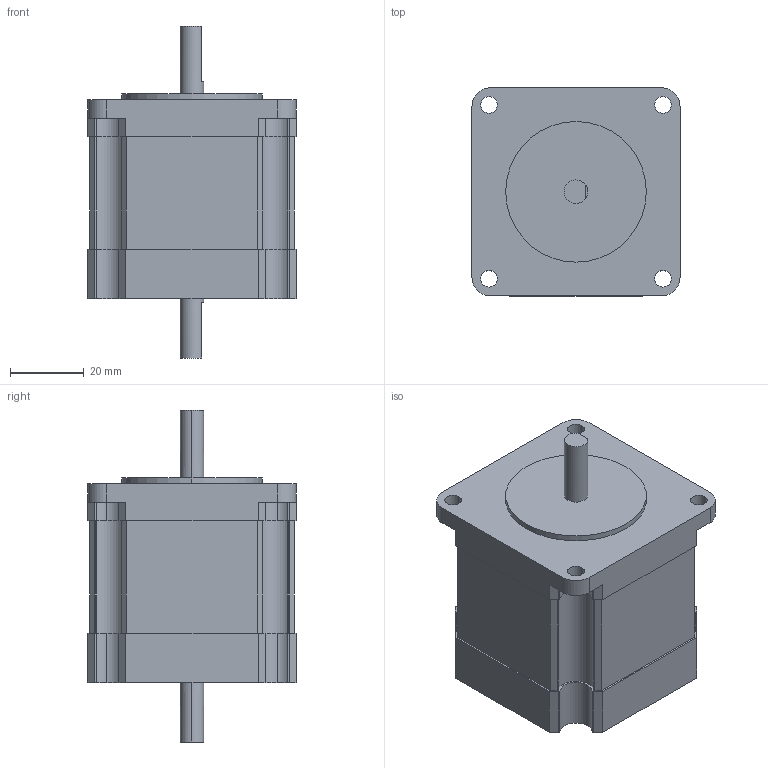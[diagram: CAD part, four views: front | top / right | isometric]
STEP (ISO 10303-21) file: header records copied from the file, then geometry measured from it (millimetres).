
FILE_DESCRIPTION (( 'STEP AP214' ), '1' );
FILE_NAME ('TS3690N12E5.STEP', '2016-09-09T01:42:58', ( 'hoho' ), ( '' ), 'SwSTEP 2.0', 'SolidWorks 2013', '' );
FILE_SCHEMA (( 'AUTOMOTIVE_DESIGN' ));
Length unit declared in the file: millimetre
Products named in the file (1): TS3690N12E5
Bounding box: 56.4 x 56.4 x 90 mm (x, y, z)
Volume: 154712 mm3; surface area: 19332.4 mm2
Topology: 1 solids, 1 shells, 117 faces, 330 edges, 220 vertices
Faces by surface type: cylinder 66, plane 51
Entity records: 4198 total; most frequent: DIRECTION 702, CARTESIAN_POINT 668, ORIENTED_EDGE 660, EDGE_CURVE 330, AXIS2_PLACEMENT_3D 254, VERTEX_POINT 220, VECTOR 194, LINE 194
